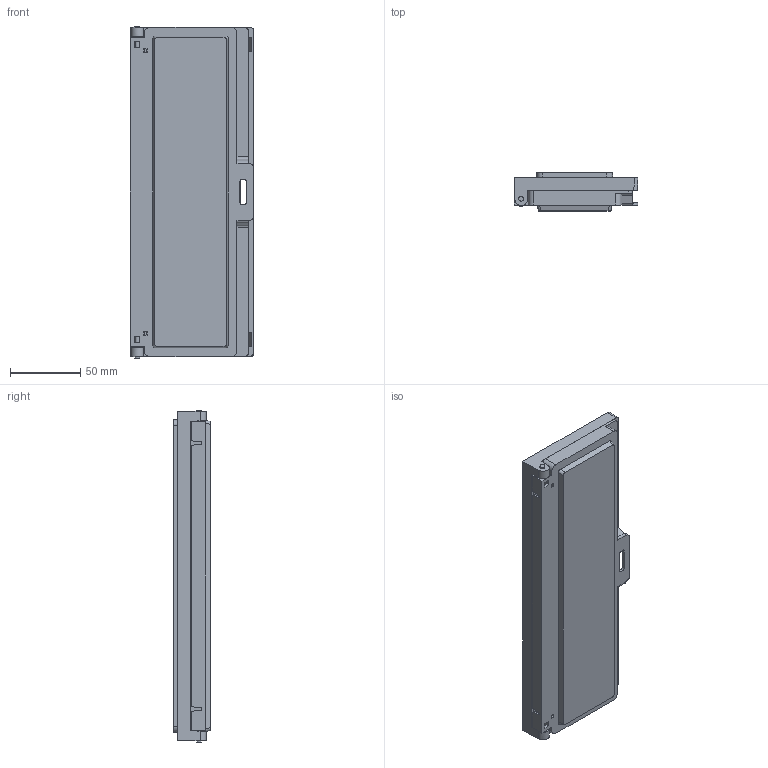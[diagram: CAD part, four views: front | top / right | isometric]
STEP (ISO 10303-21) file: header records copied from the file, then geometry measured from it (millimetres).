
FILE_DESCRIPTION (( 'STEP AP214' ), '1' );
FILE_NAME ('4.113.STEP', '2016-09-30T11:29:03', ( '' ), ( '' ), 'SwSTEP 2.0', 'SolidWorks 2015', '' );
FILE_SCHEMA (( 'AUTOMOTIVE_DESIGN' ));
Length unit declared in the file: millimetre
Products named in the file (4): 4.113.02_A; 4.113.03_A; 4.113.01_A; 4.113
Assembly tree (4 placements, depth 2):
  4.113
    4.113.01_A
    4.113.03_A  x2
    4.113.02_A
Bounding box: 88 x 27 x 236.2 mm (x, y, z)
Volume: 126657.2 mm3; surface area: 138195.3 mm2
Topology: 7 solids, 7 shells, 764 faces, 2215 edges, 1460 vertices
Faces by surface type: plane 479, cylinder 249, bspline 20, cone 16
Entity records: 26889 total; most frequent: CARTESIAN_POINT 7078, ORIENTED_EDGE 4394, DIRECTION 3691, EDGE_CURVE 2197, VECTOR 1473, LINE 1473, VERTEX_POINT 1448, AXIS2_PLACEMENT_3D 1109
